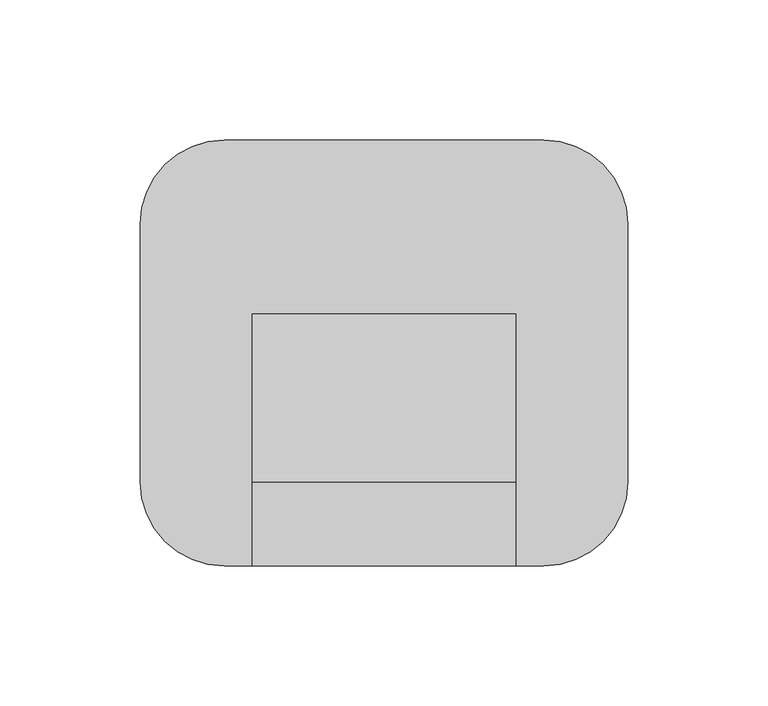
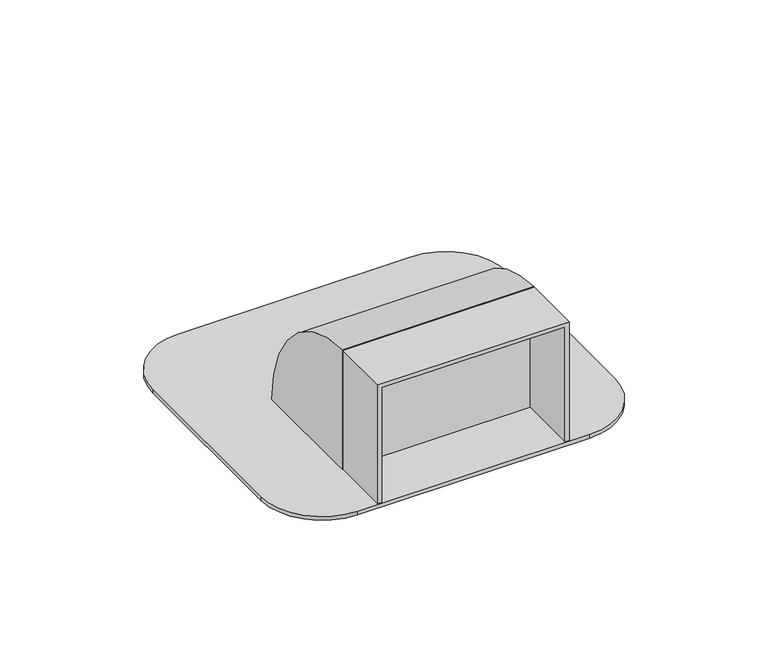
"""IFC4 building model written with IfcOpenShell, lengths in millimetres: duct fitting geometry, КНС_ВводВСтенуПодУглом_DKC : Ввод в стену."""

from ifc_helpers import new_model, si_unit, point, frame, frame_2d, origin, place, context, project, spatial, polyline, circle_curve, ellipse_curve, trimmed, segment, composite_curve, outline, extrude, source, transform, mapped, element, save
from ifc_brep_helpers import plane_surface, extruded_surface, advanced_brep


def duct_fitting_c040d157(model_context):
    return source(origin(), model_context, "Body", "SolidModel", [
        advanced_brep(
        [(47.0, 30.0, 32.0), (47.0, 30.0, -30.0), (47.0, 90.0, -30.0), (-47.0, 30.0, 32.0), (-47.0, 90.0, -30.0), (-47.0, 30.0, -30.0)],
        [
            (0, 1),
            (1, 2),
            (2, 0, ellipse_curve(frame((47.0, 30.0, -30.0), z_axis=(1.0, 0.0, 0.0), x_axis=(0.0, 0.0, -1.0)), 62.0, 60.0)),
            (3, 4, ellipse_curve(frame((-47.0, 30.0, -30.0), z_axis=(-1.0, 0.0, 0.0), x_axis=(0.0, 0.0, -1.0)), 62.0, 60.0)),
            (4, 5),
            (5, 3),
            (0, 3),
            (5, 1),
            (4, 2),
        ],
        [
            plane_surface(frame((47.0, 30.0, 32.0), z_axis=(1.0, 0.0, 0.0), x_axis=(0.0, 0.0, -1.0))),
            plane_surface(frame((-47.0, 30.0, 32.0), z_axis=(-1.0, 0.0, 0.0), x_axis=(0.0, 0.0, 1.0))),
            plane_surface(frame((47.0, 30.0, 32.0), z_axis=(0.0, -1.0, 0.0), x_axis=(-1.0, 0.0, 0.0))),
            plane_surface(frame((47.0, 30.0, -30.0), z_axis=(0.0, -2.1672147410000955e-12, -1.0), x_axis=(-1.0, 0.0, 0.0))),
            extruded_surface(trimmed(ellipse_curve(frame((-141.0, 30.0, -30.0), z_axis=(1.0, 0.0, 0.0), x_axis=(0.0, 0.0, -1.0)), 62.0, 60.0), [point((-141.0, 90.0, -30.0))], [point((-141.0, 30.0, 32.0))], True, "CARTESIAN"), (94.0, 0.0, 0.0), 94.0),
        ],
        [
            (0, [[1, 2, 3]]),
            (1, [[4, 5, 6]]),
            (2, [[-1, 7, -6, 8]]),
            (3, [[-2, -8, -5, 9]]),
            (4, [[-3, -9, -4, -7]]),
        ],
    ),
        extrude(outline(composite_curve([segment(trimmed(circle_curve(frame_2d((57.0, 122.0)), 30.0), [point((57.0, 152.0))], [point((87.0, 122.0))], False, "CARTESIAN"), True, "CONTINUOUS"), segment(polyline([(87.0, 122.0), (87.0, 30.0)]), True, "CONTINUOUS"), segment(trimmed(circle_curve(frame_2d((57.0, 30.0)), 30.0), [point((87.0, 30.0))], [point((57.0, 0.0))], False, "CARTESIAN"), True, "CONTINUOUS"), segment(polyline([(57.0, 0.0), (-57.0, 0.0)]), True, "CONTINUOUS"), segment(trimmed(circle_curve(frame_2d((-57.0, 30.0)), 30.0), [point((-57.0, 0.0))], [point((-87.0, 30.0))], False, "CARTESIAN"), True, "CONTINUOUS"), segment(polyline([(-87.0, 30.0), (-87.0, 122.0)]), True, "CONTINUOUS"), segment(trimmed(circle_curve(frame_2d((-57.0, 122.0)), 30.0), [point((-87.0, 122.0))], [point((-57.0, 152.0))], False, "CARTESIAN"), True, "CONTINUOUS"), segment(polyline([(-57.0, 152.0), (57.0, 152.0)]), True, "CONTINUOUS")], self_intersect=False)), frame((0.0, 0.0, -32.0), z_axis=(0.0, 0.0, 1.0), x_axis=(1.0, 0.0, 0.0)), (0.0, 0.0, 1.0), 2.0),
        extrude(outline(polyline([(-30.0, -45.0), (30.0, -45.0), (30.0, 45.0), (-30.0, 45.0), (-30.0, 47.0), (32.0, 47.0), (32.0, -47.0), (-30.0, -47.0), (-30.0, -45.0)])), frame((0.0, 0.0, 0.0), z_axis=(0.0, 1.0, 0.0), x_axis=(0.0, 0.0, 1.0)), (0.0, 0.0, 1.0), 30.0),
    ])


if __name__ == "__main__":
    model = new_model("IFC4")
    model_context = context("Model", 3, world=origin())
    ifc_project = project(units=[si_unit("LENGTHUNIT", "METRE", prefix="MILLI")], contexts=[model_context])
    site = spatial("IfcSite", under=ifc_project)
    building = spatial("IfcBuilding", under=site)
    placement = place(None, origin())
    duct_fitting_shape = duct_fitting_c040d157(model_context)
    element("IfcDuctFitting", 1, ObjectType="КНС_ВводВСтенуПодУглом_DKC : Ввод в стену", at=placement, inside=building, context=model_context, shape_type="MappedRepresentation", body=[
        mapped(duct_fitting_shape, transform((0.0, 0.0, 0.0), x_axis=(1.0, 0.0, 0.0), y_axis=(0.0, 1.0, 0.0), z_axis=(0.0, 0.0, 1.0))),
    ])
    save(model, "model.ifc")
